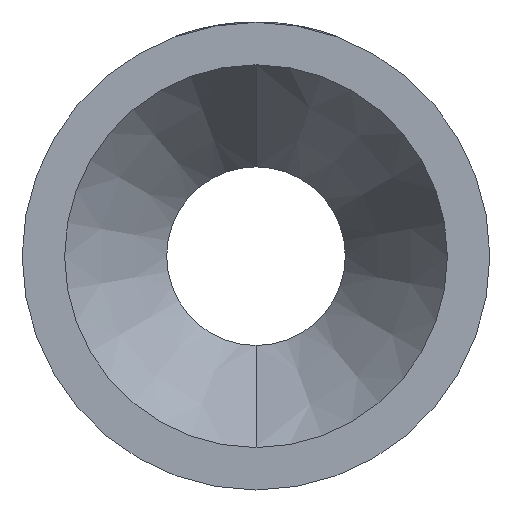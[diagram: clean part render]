
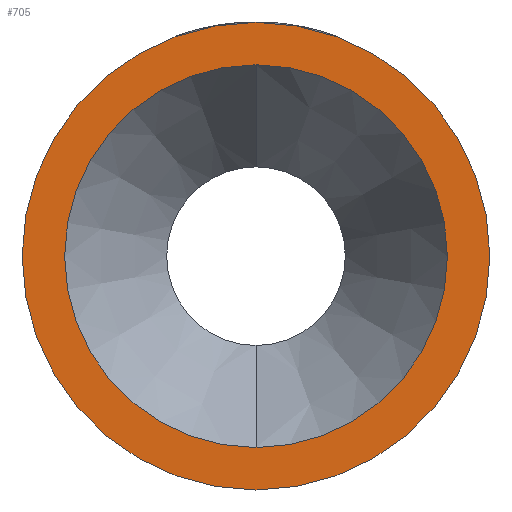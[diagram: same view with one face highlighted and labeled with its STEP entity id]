
A CAD part, left-side view. The second image highlights one B-rep face of the part: STEP entity #705.
In plain terms, the highlighted planar face has unit normal (-1, 0, 0).
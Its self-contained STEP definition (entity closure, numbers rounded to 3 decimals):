
#169 = EDGE_CURVE ( 'NONE', #3220, #2711, #1507, .T. ) ;
#284 = EDGE_CURVE ( 'NONE', #942, #2210, #3439, .T. ) ;
#469 = ORIENTED_EDGE ( 'NONE', *, *, #169, .T. ) ;
#510 = EDGE_LOOP ( 'NONE', ( #1230, #1544 ) ) ;
#590 = EDGE_LOOP ( 'NONE', ( #469, #3844 ) ) ;
#704 = EDGE_CURVE ( 'NONE', #2210, #942, #1175, .T. ) ;
#705 = ADVANCED_FACE ( 'NONE', ( #959, #3182 ), #1784, .F. ) ;
#711 = EDGE_CURVE ( 'NONE', #2711, #3220, #3761, .T. ) ;
#839 = CARTESIAN_POINT ( 'NONE',  ( 0., 0., 0. ) ) ;
#942 = VERTEX_POINT ( 'NONE', #1926 ) ;
#959 = FACE_BOUND ( 'NONE', #510, .T. ) ;
#1165 = DIRECTION ( 'NONE',  ( 0., 0., 1. ) ) ;
#1175 = CIRCLE ( 'NONE', #2766, 257.8 ) ;
#1230 = ORIENTED_EDGE ( 'NONE', *, *, #704, .F. ) ;
#1281 = CARTESIAN_POINT ( 'NONE',  ( 0., 0., 315. ) ) ;
#1317 = DIRECTION ( 'NONE',  ( 0., 0., 1. ) ) ;
#1324 = DIRECTION ( 'NONE',  ( -1., 0., 0. ) ) ;
#1334 = CARTESIAN_POINT ( 'NONE',  ( 0., 0., 0. ) ) ;
#1421 = CARTESIAN_POINT ( 'NONE',  ( 0., 0., 0. ) ) ;
#1507 = CIRCLE ( 'NONE', #3652, 315. ) ;
#1544 = ORIENTED_EDGE ( 'NONE', *, *, #284, .F. ) ;
#1562 = DIRECTION ( 'NONE',  ( 0., 0., -1. ) ) ;
#1575 = DIRECTION ( 'NONE',  ( 1., 0., 0. ) ) ;
#1584 = CARTESIAN_POINT ( 'NONE',  ( 0., 257.8, 0. ) ) ;
#1648 = DIRECTION ( 'NONE',  ( 0., 0., 1. ) ) ;
#1678 = DIRECTION ( 'NONE',  ( -1., 0., 0. ) ) ;
#1691 = CARTESIAN_POINT ( 'NONE',  ( 0., 0., 0. ) ) ;
#1784 = PLANE ( 'NONE',  #2676 ) ;
#1926 = CARTESIAN_POINT ( 'NONE',  ( 0., 0., -257.8 ) ) ;
#2047 = DIRECTION ( 'NONE',  ( -1., 0., 0. ) ) ;
#2119 = CARTESIAN_POINT ( 'NONE',  ( 0., 0., -315. ) ) ;
#2210 = VERTEX_POINT ( 'NONE', #3086 ) ;
#2569 = AXIS2_PLACEMENT_3D ( 'NONE', #1334, #1324, #1317 ) ;
#2676 = AXIS2_PLACEMENT_3D ( 'NONE', #1584, #1575, #1562 ) ;
#2711 = VERTEX_POINT ( 'NONE', #2119 ) ;
#2766 = AXIS2_PLACEMENT_3D ( 'NONE', #1691, #1678, #1648 ) ;
#3079 = DIRECTION ( 'NONE',  ( -1., 0., 0. ) ) ;
#3086 = CARTESIAN_POINT ( 'NONE',  ( 0., 0., 257.8 ) ) ;
#3182 = FACE_OUTER_BOUND ( 'NONE', #590, .T. ) ;
#3220 = VERTEX_POINT ( 'NONE', #1281 ) ;
#3281 = AXIS2_PLACEMENT_3D ( 'NONE', #839, #3079, #3325 ) ;
#3325 = DIRECTION ( 'NONE',  ( 0., 0., 1. ) ) ;
#3439 = CIRCLE ( 'NONE', #3281, 257.8 ) ;
#3652 = AXIS2_PLACEMENT_3D ( 'NONE', #1421, #2047, #1165 ) ;
#3761 = CIRCLE ( 'NONE', #2569, 315. ) ;
#3844 = ORIENTED_EDGE ( 'NONE', *, *, #711, .T. ) ;
